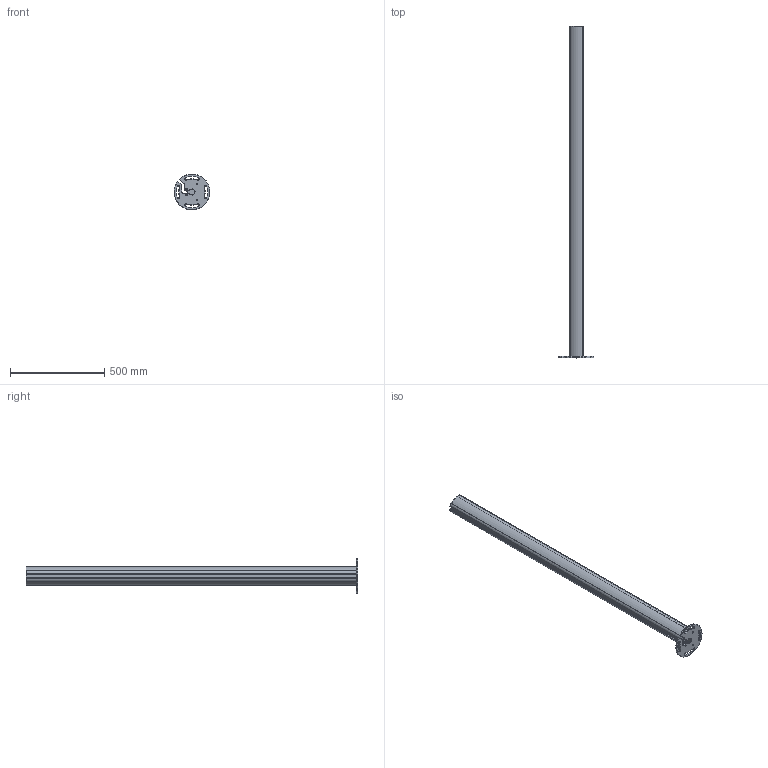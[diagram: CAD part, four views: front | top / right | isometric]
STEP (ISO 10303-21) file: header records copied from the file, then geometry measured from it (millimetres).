
FILE_DESCRIPTION((''),'2;1');
FILE_NAME('ESQC_ASM','2022-07-19T12:14:50',('18822879468'),(''),'CREO PARAMETRIC BY PTC INC, 2019010','CREO PARAMETRIC BY PTC INC, 2019010','');
FILE_SCHEMA(('CONFIG_CONTROL_DESIGN'));
Length unit declared in the file: millimetre
Products named in the file (5): 00; _-0001; _-0002; 000; ESQC_ASM
Assembly tree (4 placements, depth 2):
  ESQC_ASM
    00
    _-0001
    _-0002
    000
Bounding box: 189.81 x 1760 x 189.85 mm (x, y, z)
Volume: 2540416.1 mm3; surface area: 1350150 mm2
Topology: 4 solids, 4 shells, 239 faces, 613 edges, 378 vertices
Faces by surface type: cylinder 98, plane 73, cone 68
Entity records: 7388 total; most frequent: DIRECTION 1365, CARTESIAN_POINT 1235, ORIENTED_EDGE 1218, EDGE_CURVE 609, AXIS2_PLACEMENT_3D 508, VERTEX_POINT 378, VECTOR 349, LINE 349
